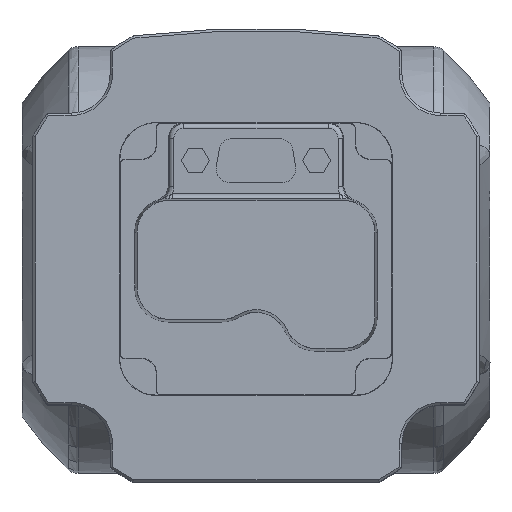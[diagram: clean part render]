
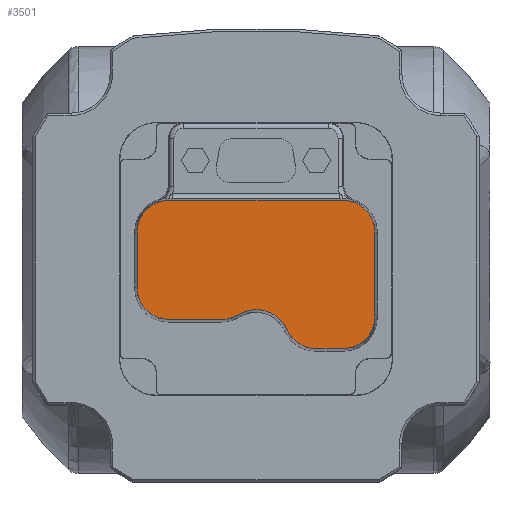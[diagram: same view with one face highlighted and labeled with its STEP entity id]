
A CAD part, top view. The second image highlights one B-rep face of the part: STEP entity #3501.
In plain terms, the highlighted planar face has unit normal (0, 0, 1).
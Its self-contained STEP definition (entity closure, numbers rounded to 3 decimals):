
#3226=FACE_OUTER_BOUND('',#4106,.T.);
#3501=ADVANCED_FACE('',(#3226),#3729,.T.);
#3729=PLANE('',#11882);
#4106=EDGE_LOOP('',(#6325,#6326,#6327,#6328,#6329,#6330,#6331,#6332,#6333,
#6334,#6335,#6336));
#4412=LINE('',#16929,#4660);
#4414=LINE('',#16938,#4662);
#4417=LINE('',#16950,#4665);
#4422=LINE('',#16966,#4670);
#4424=LINE('',#16972,#4672);
#4660=VECTOR('',#12674,1.);
#4662=VECTOR('',#12678,1.);
#4665=VECTOR('',#12687,1.);
#4670=VECTOR('',#12706,1.);
#4672=VECTOR('',#12714,1.);
#6325=ORIENTED_EDGE('',*,*,#10566,.T.);
#6326=ORIENTED_EDGE('',*,*,#10564,.T.);
#6327=ORIENTED_EDGE('',*,*,#10562,.T.);
#6328=ORIENTED_EDGE('',*,*,#10560,.T.);
#6329=ORIENTED_EDGE('',*,*,#10558,.T.);
#6330=ORIENTED_EDGE('',*,*,#10552,.F.);
#6331=ORIENTED_EDGE('',*,*,#10546,.F.);
#6332=ORIENTED_EDGE('',*,*,#10555,.F.);
#6333=ORIENTED_EDGE('',*,*,#10548,.F.);
#6334=ORIENTED_EDGE('',*,*,#10571,.F.);
#6335=ORIENTED_EDGE('',*,*,#10570,.T.);
#6336=ORIENTED_EDGE('',*,*,#10568,.T.);
#8921=VERTEX_POINT('',#16906);
#8923=VERTEX_POINT('',#16913);
#8924=VERTEX_POINT('',#16917);
#8925=VERTEX_POINT('',#16919);
#8927=VERTEX_POINT('',#16928);
#8930=VERTEX_POINT('',#16945);
#8931=VERTEX_POINT('',#16949);
#8932=VERTEX_POINT('',#16953);
#8933=VERTEX_POINT('',#16957);
#8934=VERTEX_POINT('',#16961);
#8935=VERTEX_POINT('',#16965);
#8936=VERTEX_POINT('',#16969);
#10546=EDGE_CURVE('',#8923,#8921,#11568,.T.);
#10548=EDGE_CURVE('',#8924,#8925,#11569,.T.);
#10552=EDGE_CURVE('',#8921,#8927,#4412,.T.);
#10555=EDGE_CURVE('',#8925,#8923,#4414,.T.);
#10558=EDGE_CURVE('',#8930,#8927,#11570,.T.);
#10560=EDGE_CURVE('',#8931,#8930,#4417,.T.);
#10562=EDGE_CURVE('',#8932,#8931,#11571,.T.);
#10564=EDGE_CURVE('',#8933,#8932,#11572,.T.);
#10566=EDGE_CURVE('',#8934,#8933,#11573,.T.);
#10568=EDGE_CURVE('',#8935,#8934,#4422,.T.);
#10570=EDGE_CURVE('',#8936,#8935,#11574,.T.);
#10571=EDGE_CURVE('',#8936,#8924,#4424,.T.);
#11568=CIRCLE('',#11858,6.494);
#11569=CIRCLE('',#11860,6.494);
#11570=CIRCLE('',#11864,6.494);
#11571=CIRCLE('',#11867,6.494);
#11572=CIRCLE('',#11869,7.006);
#11573=CIRCLE('',#11871,6.494);
#11574=CIRCLE('',#11874,6.494);
#11858=AXIS2_PLACEMENT_3D('',#16914,#12663,#12664);
#11860=AXIS2_PLACEMENT_3D('',#16918,#12668,#12669);
#11864=AXIS2_PLACEMENT_3D('',#16946,#12682,#12683);
#11867=AXIS2_PLACEMENT_3D('',#16954,#12691,#12692);
#11869=AXIS2_PLACEMENT_3D('',#16958,#12696,#12697);
#11871=AXIS2_PLACEMENT_3D('',#16962,#12701,#12702);
#11874=AXIS2_PLACEMENT_3D('',#16970,#12710,#12711);
#11882=AXIS2_PLACEMENT_3D('',#16999,#12738,#12739);
#12663=DIRECTION('',(0.,0.,-1.));
#12664=DIRECTION('',(1.,0.,0.));
#12668=DIRECTION('',(0.,0.,-1.));
#12669=DIRECTION('',(1.,0.,0.));
#12674=DIRECTION('',(0.,-1.,0.));
#12678=DIRECTION('',(1.,0.,0.));
#12682=DIRECTION('',(0.,0.,1.));
#12683=DIRECTION('',(1.,0.,0.));
#12687=DIRECTION('',(1.,0.,0.));
#12691=DIRECTION('',(0.,0.,1.));
#12692=DIRECTION('',(1.,0.,0.));
#12696=DIRECTION('',(0.,0.,-1.));
#12697=DIRECTION('',(1.,0.,0.));
#12701=DIRECTION('',(0.,0.,1.));
#12702=DIRECTION('',(1.,0.,0.));
#12706=DIRECTION('',(1.,0.,0.));
#12710=DIRECTION('',(0.,0.,1.));
#12711=DIRECTION('',(1.,0.,0.));
#12714=DIRECTION('',(0.,1.,0.));
#12738=DIRECTION('',(0.,0.,1.));
#12739=DIRECTION('',(1.,0.,0.));
#16906=CARTESIAN_POINT('',(24.494,5.5,157.088));
#16913=CARTESIAN_POINT('',(18.,11.994,157.088));
#16914=CARTESIAN_POINT('',(18.,5.5,157.088));
#16917=CARTESIAN_POINT('',(-24.494,5.5,157.088));
#16918=CARTESIAN_POINT('',(-18.,5.5,157.088));
#16919=CARTESIAN_POINT('',(-18.,11.994,157.088));
#16928=CARTESIAN_POINT('',(24.494,-12.,157.088));
#16929=CARTESIAN_POINT('',(24.494,-6.,157.088));
#16938=CARTESIAN_POINT('',(-18.,11.994,157.088));
#16945=CARTESIAN_POINT('',(18.,-18.494,157.088));
#16946=CARTESIAN_POINT('',(18.,-12.,157.088));
#16949=CARTESIAN_POINT('',(12.329,-18.494,157.088));
#16950=CARTESIAN_POINT('',(12.329,-18.494,157.088));
#16953=CARTESIAN_POINT('',(6.398,-14.646,157.088));
#16954=CARTESIAN_POINT('',(12.329,-12.,157.088));
#16957=CARTESIAN_POINT('',(-3.67,-11.532,157.088));
#16958=CARTESIAN_POINT('',(0.,-17.5,157.088));
#16961=CARTESIAN_POINT('',(-7.071,-12.494,157.088));
#16962=CARTESIAN_POINT('',(-7.071,-6.,157.088));
#16965=CARTESIAN_POINT('',(-18.,-12.494,157.088));
#16966=CARTESIAN_POINT('',(-18.,-12.494,157.088));
#16969=CARTESIAN_POINT('',(-24.494,-6.,157.088));
#16970=CARTESIAN_POINT('',(-18.,-6.,157.088));
#16972=CARTESIAN_POINT('',(-24.494,-6.,157.088));
#16999=CARTESIAN_POINT('',(-18.,-6.,157.088));
